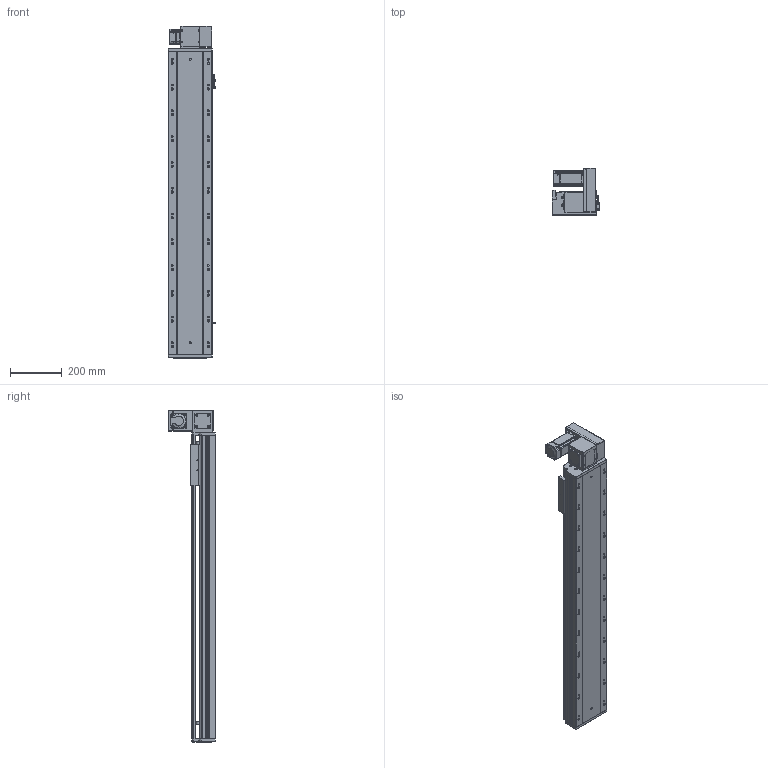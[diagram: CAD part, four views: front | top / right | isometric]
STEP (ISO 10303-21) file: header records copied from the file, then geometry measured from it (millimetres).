
FILE_DESCRIPTION (( 'STEP AP203' ), '1' );
FILE_NAME ('RY170-T-300-UR-P400W.SLDASM_900.step', '2021-03-01T09:27:38', ( '盈信电脑' ), ( '东莞市道滘镇水果街19号' ), 'SwSTEP 2.0', 'SolidWorks 2012', '' );
FILE_SCHEMA (( 'CONFIG_CONTROL_DESIGN' ));
Length unit declared in the file: millimetre
Products named in the file (18): 15; RY170-T-300-UR-P400W.SLDASM_900; 滅袉蝶18-10; RY120-T主同步轮轴承压盖; RY170-T肮祭謫裔啣; RY170-T蹟翐M4; RY170-T肮祭湍揤踡輸2; RY170同步轮电机安装板(400W); RY170-T肮祭湍揤踡輸1; RY170肮祭謫萇儂欶; RY170肮祭謫ヶ裔啣; RY170翋肮祭謫釱; RY170外置感应片(200共用）; RY170綴裔啣; RY170-T-300肮祭謫倰第裔啣-DR_900; RY170肮祭湍臏賑輸; 覜茼ん672; RY170-T-300肮祭謫倰第菁釱-DR_900
Assembly tree (22 placements, depth 2):
  RY170-T-300-UR-P400W.SLDASM_900
    RY170-T-300肮祭謫倰第菁釱-DR_900
    RY170肮祭湍臏賑輸
    RY170-T-300肮祭謫倰第裔啣-DR_900
    RY170綴裔啣
    覜茼ん672  x3
    RY170外置感应片(200共用）
    RY170肮祭謫ヶ裔啣
    RY170翋肮祭謫釱
    RY170同步轮电机安装板(400W)
    RY170肮祭謫萇儂欶
    RY170-T肮祭湍揤踡輸1  x2
    RY170-T肮祭湍揤踡輸2  x2
    RY120-T主同步轮轴承压盖
    RY170-T肮祭謫裔啣
    RY170-T蹟翐M4
    滅袉蝶18-10  x2
    15
Bounding box: 183.7 x 182 x 1288 mm (x, y, z)
Volume: 6474016.8 mm3; surface area: 2201435 mm2
Topology: 22 solids, 22 shells, 2868 faces, 8094 edges, 5211 vertices
Faces by surface type: cylinder 1336, plane 1270, cone 232, bspline 30
Entity records: 88056 total; most frequent: CARTESIAN_POINT 20733, ORIENTED_EDGE 13904, DIRECTION 13368, EDGE_CURVE 6952, AXIS2_PLACEMENT_3D 4716, VERTEX_POINT 4567, VECTOR 3936, LINE 3936
